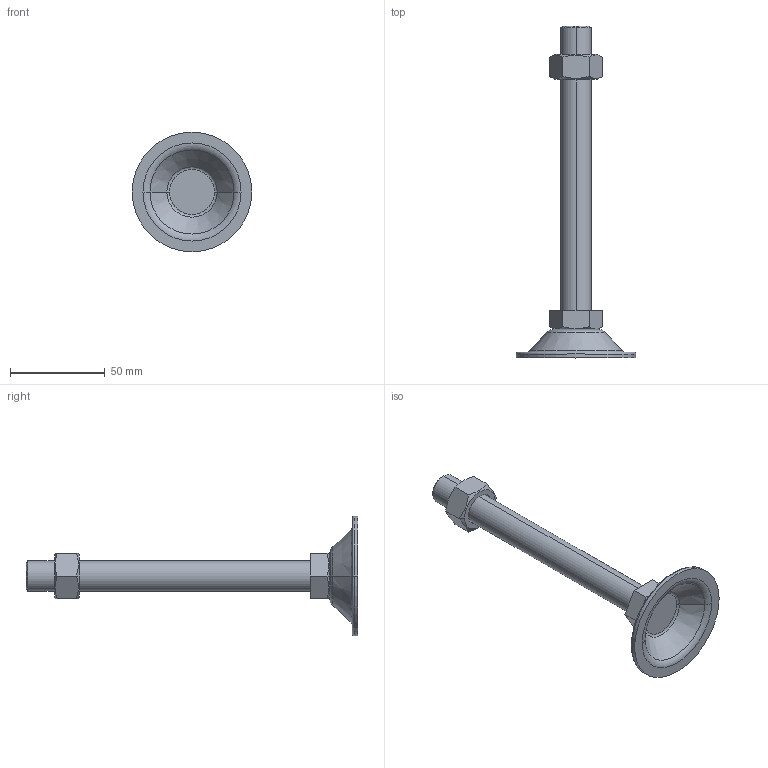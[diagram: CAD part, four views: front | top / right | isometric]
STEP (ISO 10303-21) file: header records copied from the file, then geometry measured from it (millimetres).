
FILE_DESCRIPTION (( 'STEP AP214' ), '1' );
FILE_NAME ('BL63-M16-150.step', '2021-01-06T05:38:56', ( '' ), ( '' ), 'SwSTEP 2.0', 'SolidWorks 2019', '' );
FILE_SCHEMA (( 'AUTOMOTIVE_DESIGN' ));
Length unit declared in the file: millimetre
Products named in the file (1): BL63-M16-150
Bounding box: 63 x 175 x 63 mm (x, y, z)
Volume: 49915.9 mm3; surface area: 19406.4 mm2
Topology: 3 solids, 3 shells, 53 faces, 110 edges, 66 vertices
Faces by surface type: plane 21, cone 16, torus 10, cylinder 6
Entity records: 1618 total; most frequent: CARTESIAN_POINT 428, DIRECTION 252, ORIENTED_EDGE 220, EDGE_CURVE 110, AXIS2_PLACEMENT_3D 106, VERTEX_POINT 66, EDGE_LOOP 58, FACE_OUTER_BOUND 53
